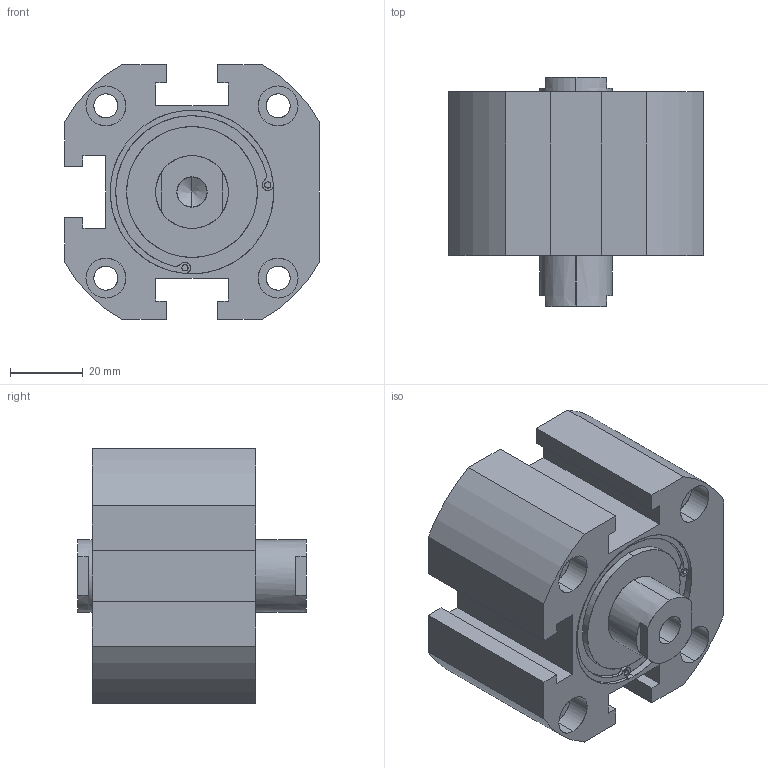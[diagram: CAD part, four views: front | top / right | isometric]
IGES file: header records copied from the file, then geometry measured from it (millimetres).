
Start section: SolidWorks IGES file using analytic representation for surfaces
Global section: file name: C:\Users\Toshiba\Desktop\XG#7-50-10.IGS; native system: SolidWorks 2014; preprocessor: SolidWorks 2014; author: Toshiba; date: 160524.095932; units: millimetre
Bounding box: 70 x 63 x 70 mm (x, y, z)
Surface area: 31217.9 mm2 (no closed solid volume)
Topology: 0 solids, 0 shells, 149 faces, 2718 edges, 2710 vertices
Faces by surface type: revolution 89, bspline 60
